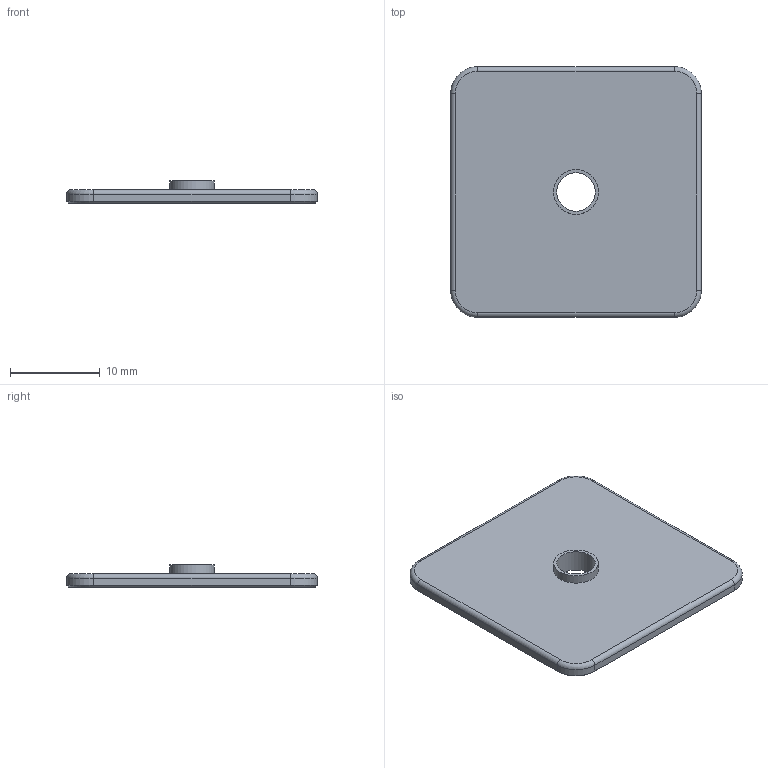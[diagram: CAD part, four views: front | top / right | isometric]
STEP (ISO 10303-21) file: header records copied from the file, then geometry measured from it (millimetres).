
FILE_DESCRIPTION(('Open CASCADE Model'),'2;1');
FILE_NAME('W-SQUARE-WS28','2026-10-19T21:23:52',('Author'),( 'Open CASCADE'),'Open CASCADE STEP processor 8.0','build123d', 'Unknown');
FILE_SCHEMA(('AUTOMOTIVE_DESIGN { 1 0 10303 214 1 1 1 1 }'));
Length unit declared in the file: millimetre
Products named in the file (2): W-SQUARE-WS28; brass_WS28__w
Assembly tree (1 placements, depth 2):
  W-SQUARE-WS28
    brass_WS28__w
Bounding box: 28 x 28 x 2.49 mm (x, y, z)
Volume: 1134.9 mm3; surface area: 1707.3 mm2
Topology: 1 solids, 1 shells, 33 faces, 68 edges, 40 vertices
Faces by surface type: plane 13, cylinder 12, cone 4, torus 4
Full cylindrical faces by diameter (mm): 2 x2, 4.3 x1, 5 x1
Entity records: 1774 total; most frequent: CARTESIAN_POINT 359, DIRECTION 266, ORIENTED_EDGE 136, PCURVE 136, DEFINITIONAL_REPRESENTATION 136, LINE 124, VECTOR 124, EDGE_CURVE 68
